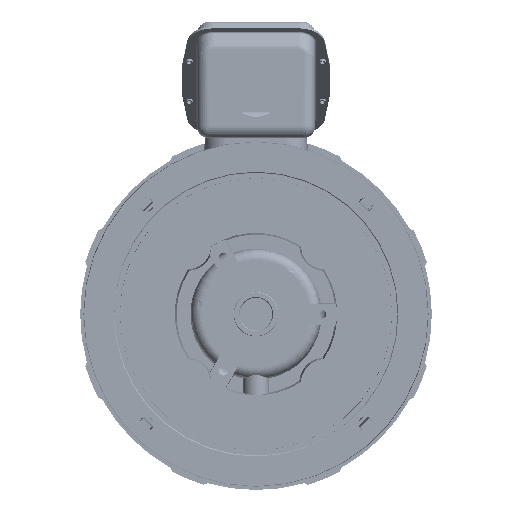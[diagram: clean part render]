
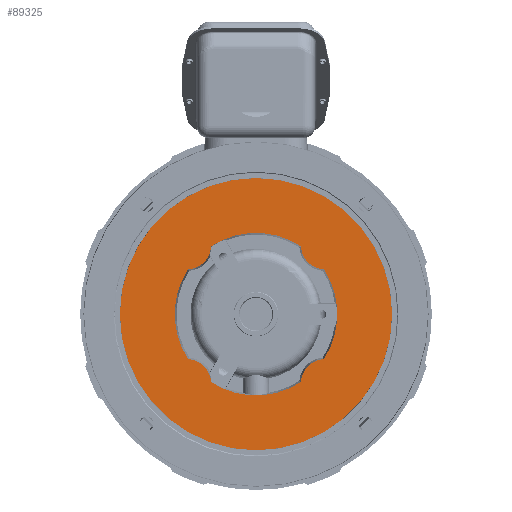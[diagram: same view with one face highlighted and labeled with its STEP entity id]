
A CAD part, front view. The second image highlights one B-rep face of the part: STEP entity #89325.
In plain terms, the highlighted planar face has unit normal (0, -1, 0) as drawn and (0, 0, -1) by its records, which use the part's own axes.
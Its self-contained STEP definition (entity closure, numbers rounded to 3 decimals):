
#62503=CARTESIAN_POINT('',(0.,0.,-4.81));
#62504=DIRECTION('',(0.,0.,1.));
#62505=DIRECTION('',(-1.,0.,0.));
#62506=AXIS2_PLACEMENT_3D('',#62503,#62504,#62505);
#62508=CARTESIAN_POINT('',(0.,0.,-4.81));
#62509=DIRECTION('',(0.,0.,-1.));
#62510=DIRECTION('',(-1.,0.,0.));
#62511=AXIS2_PLACEMENT_3D('',#62508,#62509,#62510);
#62518=CARTESIAN_POINT('',(3.227,-2.145,
-4.81));
#62520=CARTESIAN_POINT('',(0.,0.,-4.81));
#62521=DIRECTION('',(0.,0.,1.));
#62522=DIRECTION('',(0.833,-0.554,0.));
#62523=AXIS2_PLACEMENT_3D('',#62520,#62521,#62522);
#62525=CARTESIAN_POINT('',(3.227,2.145,
-4.81));
#62543=CARTESIAN_POINT('',(0.,0.,-4.81));
#62544=DIRECTION('',(0.,0.,1.));
#62545=DIRECTION('',(0.554,0.833,0.));
#62546=AXIS2_PLACEMENT_3D('',#62543,#62544,#62545);
#62548=CARTESIAN_POINT('',(-2.145,3.227,
-4.81));
#62570=CARTESIAN_POINT('',(-3.227,2.145,
-4.81));
#62572=CARTESIAN_POINT('',(0.,0.,-4.81));
#62573=DIRECTION('',(0.,0.,1.));
#62574=DIRECTION('',(-0.833,0.554,0.));
#62575=AXIS2_PLACEMENT_3D('',#62572,#62573,#62574);
#62577=CARTESIAN_POINT('',(-3.227,-2.145,
-4.81));
#62615=CARTESIAN_POINT('',(-2.145,-3.227,
-4.81));
#62617=CARTESIAN_POINT('',(0.,0.,-4.81));
#62618=DIRECTION('',(0.,0.,1.));
#62619=DIRECTION('',(-0.554,-0.833,0.));
#62620=AXIS2_PLACEMENT_3D('',#62617,#62618,#62619);
#62633=CARTESIAN_POINT('',(3.274,-3.274,-4.81));
#62634=DIRECTION('',(0.,0.,-1.));
#62635=DIRECTION('',(-0.999,0.041,0.));
#62636=AXIS2_PLACEMENT_3D('',#62633,#62634,#62635);
#62921=CARTESIAN_POINT('',(3.274,3.274,-4.81));
#62922=DIRECTION('',(0.,0.,-1.));
#62923=DIRECTION('',(-0.041,-0.999,0.));
#62924=AXIS2_PLACEMENT_3D('',#62921,#62922,#62923);
#63038=CARTESIAN_POINT('',(-3.274,3.274,-4.81));
#63039=DIRECTION('',(0.,0.,-1.));
#63040=DIRECTION('',(0.999,-0.041,0.));
#63041=AXIS2_PLACEMENT_3D('',#63038,#63039,#63040);
#63043=CARTESIAN_POINT('',(-3.274,-3.274,-4.81));
#63044=DIRECTION('',(0.,0.,-1.));
#63045=DIRECTION('',(0.041,0.999,0.));
#63046=AXIS2_PLACEMENT_3D('',#63043,#63044,#63045);
#86533=CARTESIAN_POINT('',(-6.482,0.,-4.81));
#86534=CARTESIAN_POINT('',(6.482,0.,-4.81));
#86535=VERTEX_POINT('',#86533);
#86536=VERTEX_POINT('',#86534);
#89097=VERTEX_POINT('',#62525);
#89099=CARTESIAN_POINT('',(2.145,3.227,-4.81));
#89100=VERTEX_POINT('',#89099);
#89102=VERTEX_POINT('',#62518);
#89103=CARTESIAN_POINT('',(2.145,-3.227,-4.81));
#89104=VERTEX_POINT('',#89103);
#89105=VERTEX_POINT('',#62577);
#89108=VERTEX_POINT('',#62615);
#89109=VERTEX_POINT('',#62548);
#89112=VERTEX_POINT('',#62570);
#89298=CARTESIAN_POINT('',(0.,0.,-4.81));
#89299=DIRECTION('',(0.,0.,1.));
#89300=DIRECTION('',(-1.,0.,0.));
#89301=AXIS2_PLACEMENT_3D('',#89298,#89299,#89300);
#89302=PLANE('',#89301);
#89303=ORIENTED_EDGE('',*,*,#89278,.T.);
#89304=ORIENTED_EDGE('',*,*,#89292,.F.);
#89305=EDGE_LOOP('',(#89303,#89304));
#89306=FACE_OUTER_BOUND('',#89305,.F.);
#89308=ORIENTED_EDGE('',*,*,#89307,.F.);
#89310=ORIENTED_EDGE('',*,*,#89309,.F.);
#89312=ORIENTED_EDGE('',*,*,#89311,.F.);
#89314=ORIENTED_EDGE('',*,*,#89313,.F.);
#89316=ORIENTED_EDGE('',*,*,#89315,.F.);
#89318=ORIENTED_EDGE('',*,*,#89317,.F.);
#89320=ORIENTED_EDGE('',*,*,#89319,.F.);
#89322=ORIENTED_EDGE('',*,*,#89321,.F.);
#89323=EDGE_LOOP('',(#89308,#89310,#89312,#89314,#89316,#89318,#89320,#89322));
#89324=FACE_BOUND('',#89323,.F.);
#89325=ADVANCED_FACE('',(#89306,#89324),#89302,.F.);
#62507=CIRCLE('',#62506,6.482);
#62512=CIRCLE('',#62511,6.482);
#62524=CIRCLE('',#62523,3.875);
#62547=CIRCLE('',#62546,3.875);
#62576=CIRCLE('',#62575,3.875);
#62621=CIRCLE('',#62620,3.875);
#62637=CIRCLE('',#62636,1.13);
#62925=CIRCLE('',#62924,1.13);
#63042=CIRCLE('',#63041,1.13);
#63047=CIRCLE('',#63046,1.13);
#89278=EDGE_CURVE('',#86535,#86536,#62507,.T.);
#89292=EDGE_CURVE('',#86535,#86536,#62512,.T.);
#89307=EDGE_CURVE('',#89112,#89105,#62576,.T.);
#89309=EDGE_CURVE('',#89109,#89112,#63042,.T.);
#89311=EDGE_CURVE('',#89100,#89109,#62547,.T.);
#89313=EDGE_CURVE('',#89097,#89100,#62925,.T.);
#89315=EDGE_CURVE('',#89102,#89097,#62524,.T.);
#89317=EDGE_CURVE('',#89104,#89102,#62637,.T.);
#89319=EDGE_CURVE('',#89108,#89104,#62621,.T.);
#89321=EDGE_CURVE('',#89105,#89108,#63047,.T.);
